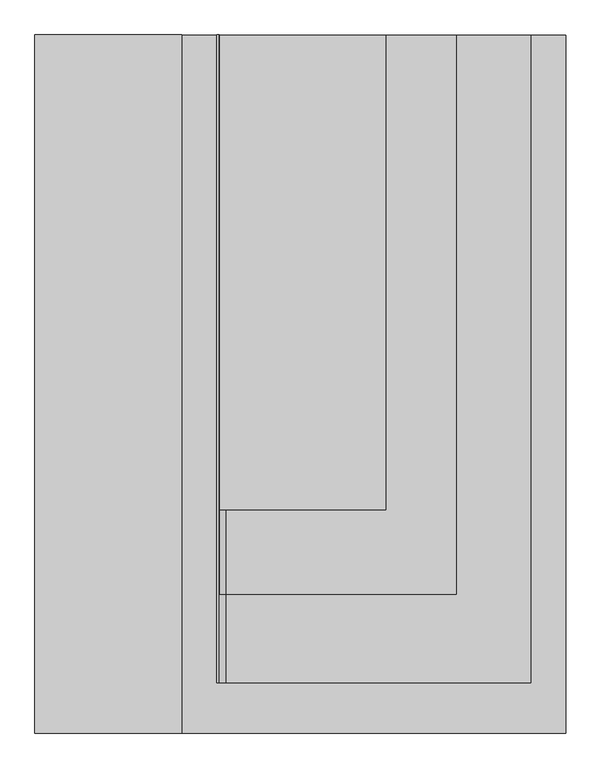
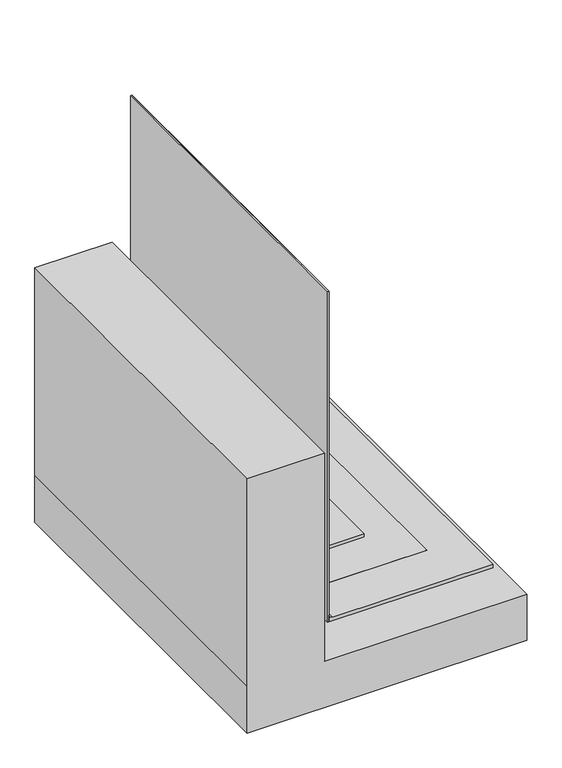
"""IFC4 building model written with IfcOpenShell, lengths in millimetres: proxy geometry, IMPER:IMPER:433934 : IMPER:IMPER:433934."""

import ifcopenshell
import ifcopenshell.guid

model = None  # the IFC model being written
_history = None  # IfcOwnerHistory: only IFC2X3 demands one
_inside = {}  # id of a spatial element -> (the spatial element, [elements in it])
_under = {}  # id of a project, library or spatial element -> (it, [spatial elements below it])
_declared = {}  # id of a project -> (the project, [libraries it declares])
_typed = {}  # id of a type object -> (the type object, [elements of that type])
_made_of = {}  # id of a material, layer set ... -> (it, [elements and type objects made of it])


def new_model(schema):
    """Start an empty IFC model of exactly this schema.

    Asked for "IFC4X3", IfcOpenShell would pick the latest addendum, in which some entities
    have other attributes; the version numbers below select the first issue.
    IFC2X3 requires an IfcOwnerHistory on every rooted entity: one is made here for all.
    """
    global model, _history
    if schema == "IFC4X3":
        model = ifcopenshell.file(schema_version=(4, 3, 0, 0))
    else:
        model = ifcopenshell.file(schema=schema)
    _inside.clear()
    _under.clear()
    _declared.clear()
    _typed.clear()
    _made_of.clear()
    _history = None
    if model.schema == "IFC2X3":
        org = make("IfcOrganization", Name="unknown")
        user = make(
            "IfcPersonAndOrganization",
            ThePerson=make("IfcPerson", FamilyName="unknown"),
            TheOrganization=org,
        )
        app = make(
            "IfcApplication",
            ApplicationDeveloper=org,
            Version="unknown",
            ApplicationFullName="unknown",
            ApplicationIdentifier="unknown",
        )
        _history = make(
            "IfcOwnerHistory",
            OwningUser=user,
            OwningApplication=app,
            ChangeAction="ADDED",
            CreationDate=0,
        )
    return model


def make(cls, **values):
    """One entity of the class cls with the attributes given. An attribute that is None is left unset."""
    return model.create_entity(
        cls, **{name: value for name, value in values.items() if value is not None}
    )


def rooted(cls, **values):
    """An entity with a GlobalId (a new one), such as an element, a storey or a relation."""
    return make(cls, GlobalId=ifcopenshell.guid.new(), OwnerHistory=_history, **values)


def si_unit(unit_type, name, prefix=None):
    """IfcSIUnit, for example si_unit("LENGTHUNIT", "METRE", prefix="MILLI")."""
    return make("IfcSIUnit", UnitType=unit_type, Prefix=prefix, Name=name)


def assignment(units):
    """IfcUnitAssignment: the units of a project."""
    return None if units is None else make("IfcUnitAssignment", Units=units)


def point(xyz):
    """IfcCartesianPoint."""
    return None if xyz is None else make("IfcCartesianPoint", Coordinates=xyz)


def direction(xyz):
    """IfcDirection."""
    return None if xyz is None else make("IfcDirection", DirectionRatios=xyz)


def frame(location, z_axis=None, x_axis=None):
    """IfcAxis2Placement3D, a coordinate frame: its origin and axes. An axis left out is left unset."""
    return make(
        "IfcAxis2Placement3D",
        Location=point(location),
        Axis=direction(z_axis),
        RefDirection=direction(x_axis),
    )


def frame_2d(location, x_axis=None):
    """IfcAxis2Placement2D, a coordinate frame in the plane: its origin and x axis."""
    return make(
        "IfcAxis2Placement2D", Location=point(location), RefDirection=direction(x_axis)
    )


def origin():
    """The frame at (0, 0, 0) with its axes left unset."""
    return frame((0.0, 0.0, 0.0))


def place(relative_to, where):
    """IfcLocalPlacement: puts the frame where relative to a parent placement (None: the world)."""
    return make(
        "IfcLocalPlacement", PlacementRelTo=relative_to, RelativePlacement=where
    )


def context(
    kind, dimensions, precision=None, world=None, true_north=None, identifier=None
):
    """IfcGeometricRepresentationContext, for example the 3D "Model" context."""
    return make(
        "IfcGeometricRepresentationContext",
        ContextIdentifier=identifier,
        ContextType=kind,
        CoordinateSpaceDimension=dimensions,
        Precision=precision,
        WorldCoordinateSystem=world,
        TrueNorth=true_north,
    )


def project(units=None, contexts=None):
    """IfcProject with its units and contexts."""
    return rooted(
        "IfcProject",
        Name="project",
        RepresentationContexts=contexts,
        UnitsInContext=assignment(units),
    )


def spatial(cls, under=None, at=None, **own):
    """A site, building, storey or space (cls), placed at a placement, below another one or the project."""
    s = rooted(cls, ObjectPlacement=at, **own)
    if under is not None:
        _under.setdefault(under.id(), (under, []))[1].append(s)
    return s


def polyline(points):
    """IfcPolyline through the points."""
    return make("IfcPolyline", Points=[point(p) for p in points])


def circle_curve(where, radius):
    """IfcCircle in the frame where."""
    return make("IfcCircle", Position=where, Radius=radius)


def trimmed(basis, trim1, trim2, sense, master):
    """IfcTrimmedCurve: the piece of a basis curve between two trims."""
    return make(
        "IfcTrimmedCurve",
        BasisCurve=basis,
        Trim1=trim1,
        Trim2=trim2,
        SenseAgreement=sense,
        MasterRepresentation=master,
    )


def segment(curve, same_sense, transition):
    """IfcCompositeCurveSegment."""
    return make(
        "IfcCompositeCurveSegment",
        Transition=transition,
        SameSense=same_sense,
        ParentCurve=curve,
    )


def composite_curve(segments, self_intersect=None):
    """IfcCompositeCurve: segments joined end to end."""
    return make("IfcCompositeCurve", Segments=segments, SelfIntersect=self_intersect)


def outline(outer, holes=None, kind="AREA"):
    """IfcArbitraryClosedProfileDef: a profile drawn as a closed curve; with holes, ...WithVoids."""
    if holes is None:
        return make("IfcArbitraryClosedProfileDef", ProfileType=kind, OuterCurve=outer)
    return make(
        "IfcArbitraryProfileDefWithVoids",
        ProfileType=kind,
        OuterCurve=outer,
        InnerCurves=holes,
    )


def extrude(swept, where, along, depth):
    """IfcExtrudedAreaSolid: the profile swept, set in the frame where, extruded along a direction by depth."""
    return make(
        "IfcExtrudedAreaSolid",
        SweptArea=swept,
        Position=where,
        ExtrudedDirection=direction(along),
        Depth=depth,
    )


def shape(context_of_items, identifier, shape_type, items):
    """IfcShapeRepresentation: the items that make up one representation, for example the "Body"."""
    return make(
        "IfcShapeRepresentation",
        ContextOfItems=context_of_items,
        RepresentationIdentifier=identifier,
        RepresentationType=shape_type,
        Items=items,
    )


def source(mapping_origin, context_of_items, identifier, shape_type, items):
    """IfcRepresentationMap: a shape defined once, which mapped items show again and again."""
    return make(
        "IfcRepresentationMap",
        MappingOrigin=mapping_origin,
        MappedRepresentation=shape(context_of_items, identifier, shape_type, items),
    )


def transform(
    local_origin,
    x_axis=None,
    y_axis=None,
    z_axis=None,
    scale=None,
    scale2=None,
    scale3=None,
    uniform=True,
):
    """IfcCartesianTransformationOperator3D, or its non-uniform kind. x_axis, y_axis, z_axis: its Axis1, 2, 3."""
    if uniform:
        return make(
            "IfcCartesianTransformationOperator3D",
            Axis1=direction(x_axis),
            Axis2=direction(y_axis),
            LocalOrigin=point(local_origin),
            Scale=scale,
            Axis3=direction(z_axis),
        )
    return make(
        "IfcCartesianTransformationOperator3DnonUniform",
        Axis1=direction(x_axis),
        Axis2=direction(y_axis),
        LocalOrigin=point(local_origin),
        Scale=scale,
        Axis3=direction(z_axis),
        Scale2=scale2,
        Scale3=scale3,
    )


def mapped(mapping_source, mapping_target):
    """IfcMappedItem: shows the shape of a source again, moved by a transform."""
    return make(
        "IfcMappedItem", MappingSource=mapping_source, MappingTarget=mapping_target
    )


def made_of(thing, what):
    """Note that an element or type object is made of a material, layer set ...; save() writes the relation."""
    if what is not None:
        _made_of.setdefault(what.id(), (what, []))[1].append(thing)
    return thing


def element(
    cls,
    number,
    at=None,
    inside=None,
    cuts=None,
    type_object=None,
    material=None,
    context=None,
    identifier="Body",
    shape_type=None,
    held_by="IfcProductDefinitionShape",
    body=None,
    shapes=None,
    **own,
):
    """One element of the class cls, such as IfcWall. Its Tag is "e" and its number.

    at: its placement. inside: the storey or other place that contains it. cuts: it is an
    opening in that element (IfcRelVoidsElement). A single representation is given by context,
    identifier, shape_type and body (its items); several are given by shapes. held_by: the class
    of the entity that holds the representations. save() writes the other relations.
    """
    e = rooted(cls, Tag="e%d" % number, ObjectPlacement=at, **own)
    if body is not None:
        shapes = [shape(context, identifier, shape_type, body)]
    if shapes is not None:
        e.Representation = make(held_by, Representations=shapes)
    if inside is not None:
        _inside.setdefault(inside.id(), (inside, []))[1].append(e)
    if cuts is not None:
        rooted(
            "IfcRelVoidsElement", RelatingBuildingElement=cuts, RelatedOpeningElement=e
        )
    if type_object is not None:
        _typed.setdefault(type_object.id(), (type_object, []))[1].append(e)
    return made_of(e, material)


def aggregate(whole, parts):
    """IfcRelAggregates: a whole, such as a stair, and the parts it consists of."""
    return rooted("IfcRelAggregates", RelatingObject=whole, RelatedObjects=parts)


def save(model, path):
    """Write the relations noted so far, then the file.

    IfcRelAggregates (storeys below a building ...), IfcRelContainedInSpatialStructure (elements
    in a storey), IfcRelDefinesByType, IfcRelAssociatesMaterial and IfcRelDeclares: one each for
    every whole, place, type object, material and project.
    """
    for whole, parts in _under.values():
        aggregate(whole, parts)
    for where, things in _inside.values():
        rooted(
            "IfcRelContainedInSpatialStructure",
            RelatedElements=things,
            RelatingStructure=where,
        )
    for kind, things in _typed.values():
        rooted("IfcRelDefinesByType", RelatedObjects=things, RelatingType=kind)
    for what, things in _made_of.values():
        rooted("IfcRelAssociatesMaterial", RelatedObjects=things, RelatingMaterial=what)
    for by, libraries in _declared.values():
        rooted("IfcRelDeclares", RelatingContext=by, RelatedDefinitions=libraries)
    model.write(path)


def generic_models_1f95e9b6(model_context):
    return source(origin(), model_context, "Body", "SweptSolid", [
        extrude(outline(polyline([(-351.9704105, 145.8700195), (-341.9704105, 145.8700195), (-341.9704105, -2638.3504299), (-351.9704105, -2638.3504299), (-351.9704105, 145.8700195)])), frame((0.0, 0.0, 147.476202), z_axis=(0.0, 0.0, 1.0), x_axis=(1.0, 0.0, 0.0)), (0.0, 0.0, 1.0), 2850.0),
        extrude(outline(composite_curve([segment(polyline([(178.476202, 373.914583), (207.476202, 373.914583), (207.476202, -340.9525477)]), True, "CONTINUOUS"), segment(trimmed(circle_curve(frame_2d((206.476202, -312.9704105)), 28.0), [point((207.476202, -340.9525477))], [point((178.476202, -312.9704105))], False, "CARTESIAN"), True, "CONTINUOUS"), segment(polyline([(178.476202, -312.9704105), (178.476202, 373.914583)]), True, "CONTINUOUS")], self_intersect=False)), frame((0.0, -1895.1970519, 0.0), z_axis=(0.0, 1.0, 0.0), x_axis=(0.0, 0.0, 1.0)), (0.0, 0.0, 1.0), 2041.0670714),
        extrude(outline(polyline([(-340.9704105, 145.8700195), (-339.9704105, 145.8700195), (-339.9704105, -1895.1970519), (-340.9704105, -1895.1970519), (-340.9704105, 145.8700195)])), frame((0.0, 0.0, 207.476202), z_axis=(0.0, 0.0, 1.0), x_axis=(1.0, 0.0, 0.0)), (0.0, 0.0, 1.0), 2790.0),
        extrude(outline(composite_curve([segment(polyline([(178.476202, 676.9278399), (178.476202, -311.9704105)]), True, "CONTINUOUS"), segment(trimmed(circle_curve(frame_2d((207.476202, -311.9704105)), 29.0), [point((178.476202, -311.9704105))], [point((207.476202, -340.9704105))], True, "CARTESIAN"), True, "CONTINUOUS"), segment(polyline([(207.476202, -340.9704105), (2997.476202, -340.9704105), (2997.476202, -341.9704105), (207.476202, -341.9704105)]), True, "CONTINUOUS"), segment(trimmed(circle_curve(frame_2d((207.476202, -311.9704105)), 30.0), [point((207.476202, -341.9704105))], [point((177.476202, -311.9704105))], False, "CARTESIAN"), True, "CONTINUOUS"), segment(polyline([(177.476202, -311.9704105), (177.476202, 676.9278399), (178.476202, 676.9278399)]), True, "CONTINUOUS")], self_intersect=False)), frame((0.0, -2257.3298155, 0.0), z_axis=(0.0, 1.0, 0.0), x_axis=(0.0, 0.0, 1.0)), (0.0, 0.0, 1.0), 2403.199835),
        extrude(outline(composite_curve([segment(polyline([(177.476202, 996.9278399), (177.476202, -311.9704105)]), True, "CONTINUOUS"), segment(trimmed(circle_curve(frame_2d((207.476202, -311.9704105)), 30.0), [point((177.476202, -311.9704105))], [point((207.476202, -341.9704105))], True, "CARTESIAN"), True, "CONTINUOUS"), segment(polyline([(207.476202, -341.9704105), (147.476202, -341.9704105), (147.476202, 996.9278399), (177.476202, 996.9278399)]), True, "CONTINUOUS")], self_intersect=False)), frame((0.0, -2638.3504299, 0.0), z_axis=(0.0, 1.0, 0.0), x_axis=(0.0, 0.0, 1.0)), (0.0, 0.0, 1.0), 2784.2204493),
        extrude(outline(polyline([(-402.523798, -1133.0721601), (-402.523798, 1148.0295895), (-2.523798, 1148.0295895), (-2.523798, -501.9704105), (1787.9453576, -501.9704105), (1787.9453576, -1133.0721601), (-2.523798, -1133.0721601), (-402.523798, -1133.0721601)])), frame((0.0, -2854.1299805, 0.0), z_axis=(0.0, 1.0, 0.0), x_axis=(0.0, 0.0, 1.0)), (0.0, 0.0, 1.0), 3000.0),
    ])


if __name__ == "__main__":
    model = new_model("IFC4")
    model_context = context("Model", 3, world=origin())
    ifc_project = project(units=[si_unit("LENGTHUNIT", "METRE", prefix="MILLI")], contexts=[model_context])
    site = spatial("IfcSite", under=ifc_project)
    building = spatial("IfcBuilding", under=site)
    placement = place(None, origin())
    generic_models_shape = generic_models_1f95e9b6(model_context)
    element("IfcBuildingElementProxy", 1, Name="IMPER:IMPER:433934 : IMPER:IMPER:433934", ObjectType="IMPER:IMPER:433934 : IMPER:IMPER:433934", at=placement, inside=building, context=model_context, shape_type="MappedRepresentation", body=[
        mapped(generic_models_shape, transform((0.0, 0.0, 0.0), x_axis=(1.0, 0.0, 0.0), y_axis=(0.0, 1.0, 0.0), z_axis=(0.0, 0.0, 1.0))),
    ])
    save(model, "model.ifc")
